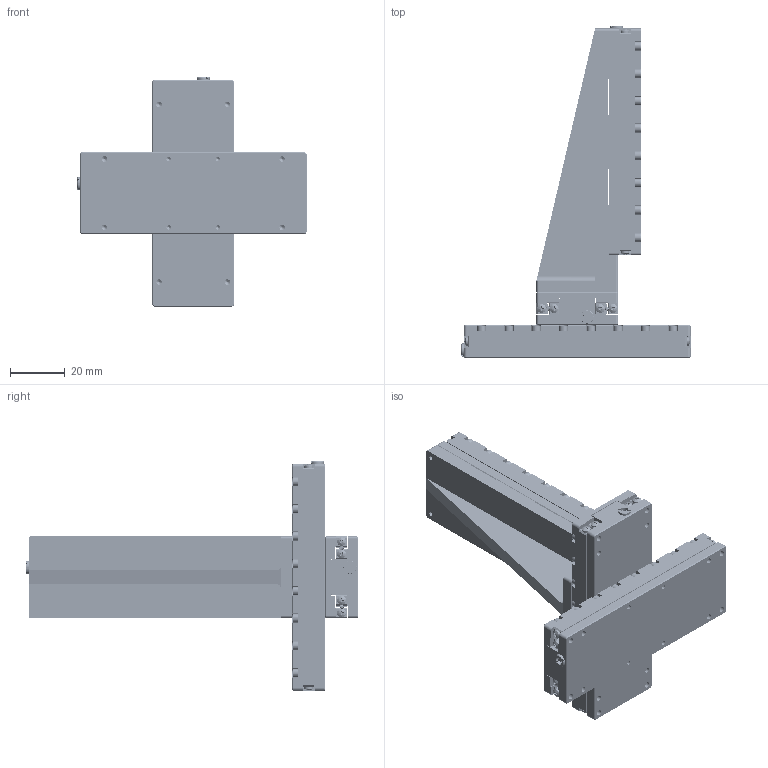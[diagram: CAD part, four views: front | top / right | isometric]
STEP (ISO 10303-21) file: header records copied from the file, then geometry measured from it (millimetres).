
FILE_DESCRIPTION (( 'STEP AP214' ), '1' );
FILE_NAME ('N56.XYZ50K-B1开环三维直线压电马达3D图（25.05.06）.STEP', '2025-08-01T01:25:54', ( '微软用户' ), ( '微软中国' ), 'SwSTEP 2.0', 'SolidWorks 2016', '' );
FILE_SCHEMA (( 'AUTOMOTIVE_DESIGN' ));
Length unit declared in the file: millimetre
Products named in the file (1): N56.XYZ50K-B1开环三维直线压电马达3D图（25.05.06）
Bounding box: 83.9 x 121.4 x 83.9 mm (x, y, z)
Volume: 84807.5 mm3; surface area: 85462.9 mm2
Topology: 274 solids, 274 shells, 6070 faces, 14908 edges, 9489 vertices
Faces by surface type: plane 3074, cylinder 2215, cone 541, bspline 240
Entity records: 250346 total; most frequent: CARTESIAN_POINT 36197, DIRECTION 30839, ORIENTED_EDGE 29016, EDGE_CURVE 14508, AXIS2_PLACEMENT_3D 11267, VERTEX_POINT 9489, VECTOR 8305, LINE 8305
